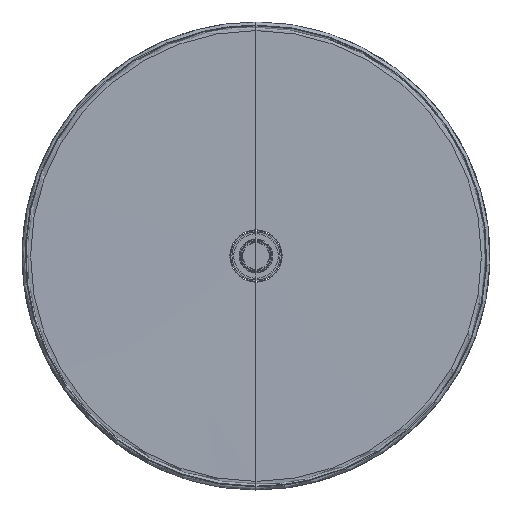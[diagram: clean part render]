
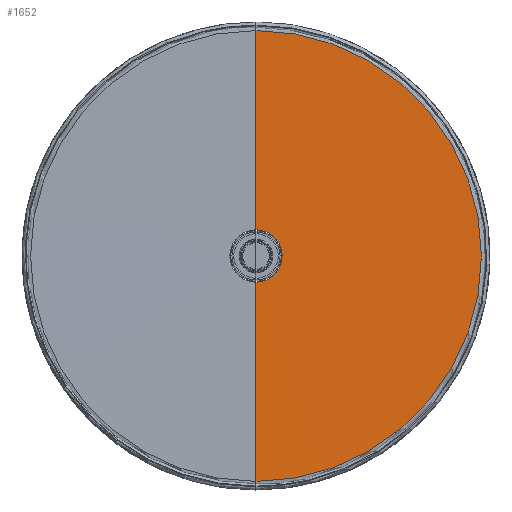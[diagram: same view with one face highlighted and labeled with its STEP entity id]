
A CAD part, top view. The second image highlights one B-rep face of the part: STEP entity #1652.
In plain terms, the highlighted conical face has half-angle 89.776 degrees and reference radius 263.45 mm.
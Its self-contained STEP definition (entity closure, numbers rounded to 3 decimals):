
#22=CONICAL_SURFACE('',#1856,263.45,1.567);
#258=FACE_OUTER_BOUND('',#368,.T.);
#368=EDGE_LOOP('',(#1470,#1471,#1472,#1473));
#468=CIRCLE('',#1857,289.);
#469=CIRCLE('',#1858,33.5);
#552=LINE('',#4170,#634);
#553=LINE('',#4174,#635);
#634=VECTOR('',#2332,304.8);
#635=VECTOR('',#2335,304.8);
#770=VERTEX_POINT('',#4168);
#771=VERTEX_POINT('',#4169);
#772=VERTEX_POINT('',#4171);
#773=VERTEX_POINT('',#4173);
#1004=EDGE_CURVE('',#770,#771,#552,.T.);
#1005=EDGE_CURVE('',#772,#770,#468,.T.);
#1006=EDGE_CURVE('',#773,#772,#553,.T.);
#1007=EDGE_CURVE('',#771,#773,#469,.T.);
#1470=ORIENTED_EDGE('',*,*,#1004,.F.);
#1471=ORIENTED_EDGE('',*,*,#1005,.F.);
#1472=ORIENTED_EDGE('',*,*,#1006,.F.);
#1473=ORIENTED_EDGE('',*,*,#1007,.F.);
#1652=ADVANCED_FACE('',(#258),#22,.F.);
#1856=AXIS2_PLACEMENT_3D('',#4167,#2330,#2331);
#1857=AXIS2_PLACEMENT_3D('',#4172,#2333,#2334);
#1858=AXIS2_PLACEMENT_3D('',#4175,#2336,#2337);
#2330=DIRECTION('center_axis',(0.,0.,
1.));
#2331=DIRECTION('ref_axis',(1.,0.,0.));
#2332=DIRECTION('',(0.,1.,-0.004));
#2333=DIRECTION('center_axis',(0.,0.,
-1.));
#2334=DIRECTION('ref_axis',(-0.588,-0.809,0.));
#2335=DIRECTION('',(0.,1.,0.004));
#2336=DIRECTION('center_axis',(0.,0.,1.));
#2337=DIRECTION('ref_axis',(0.,-1.,0.));
#4167=CARTESIAN_POINT('Origin',(0.,0.,
9.9));
#4168=CARTESIAN_POINT('',(0.,-289.,10.));
#4169=CARTESIAN_POINT('',(0.,-33.5,9.));
#4170=CARTESIAN_POINT('',(0.,-289.,10.));
#4171=CARTESIAN_POINT('',(0.,289.,10.));
#4172=CARTESIAN_POINT('Origin',(0.,0.,
10.));
#4173=CARTESIAN_POINT('',(0.,33.5,9.));
#4174=CARTESIAN_POINT('',(0.,33.5,9.));
#4175=CARTESIAN_POINT('Origin',(0.,0.,9.));
